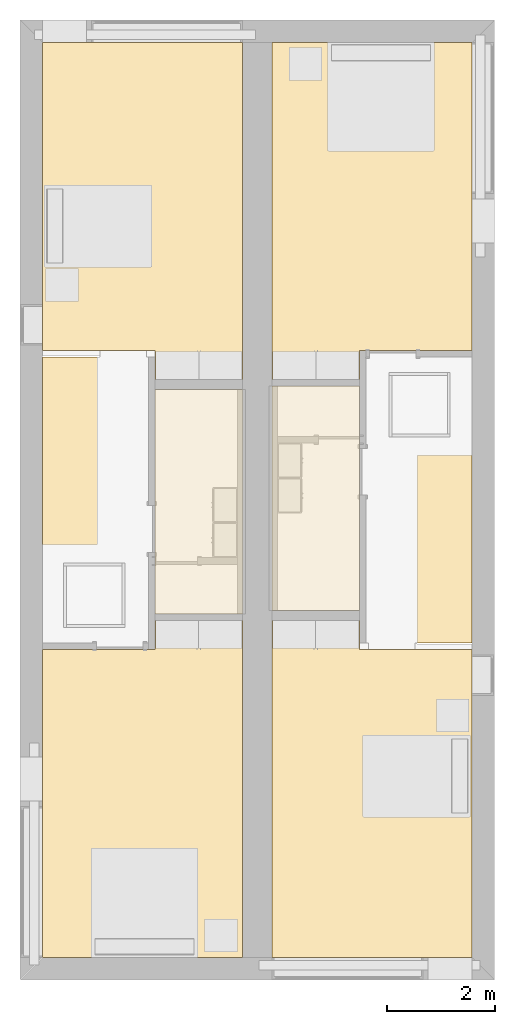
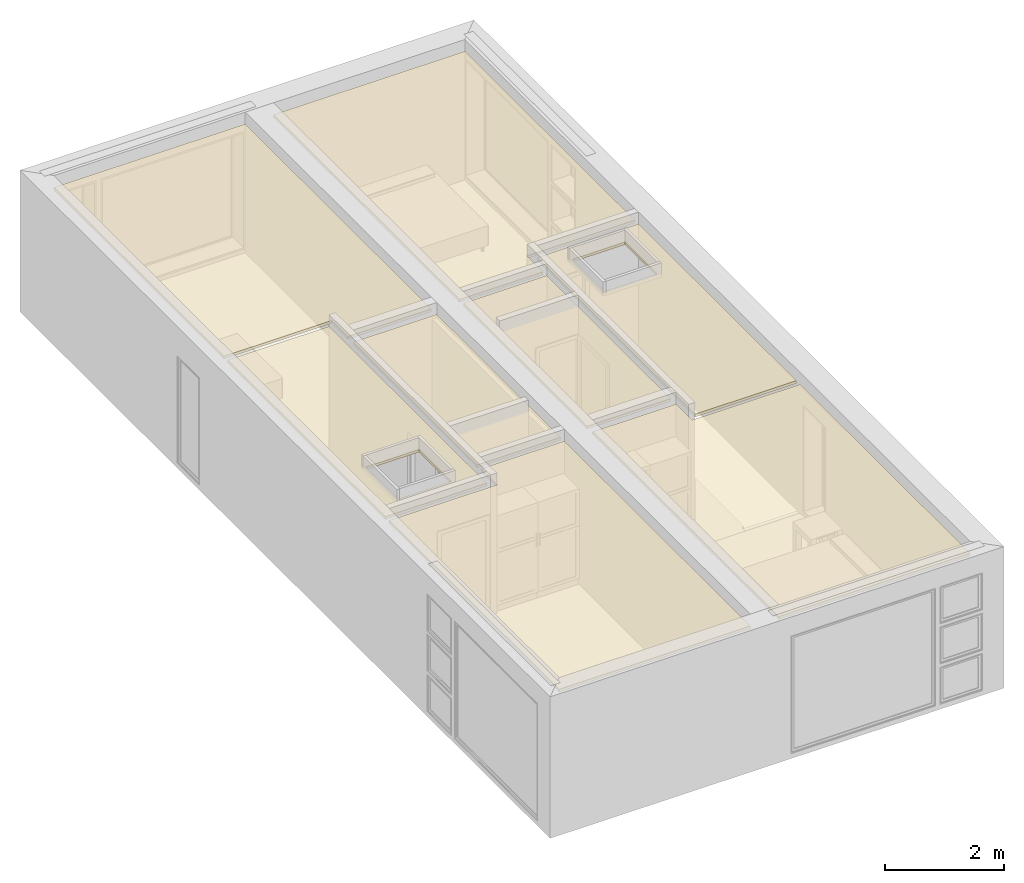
# One storey, part 2 of 8: 8 coverings.
"""IFC4 building model written with IfcOpenShell, lengths in metres."""

from ifc_helpers import new_model, entity, si_unit, converted_unit, frame, origin, place, context, project, spatial, face_set, surface_model, element, save


model = new_model("IFC4")

# Units and contexts
model_context = context("Model", 3, precision=1e-09, world=origin())
plan_context = context("Plan", 3, precision=1e-09, world=origin())
ifc_project = project(units=[si_unit("LENGTHUNIT", "METRE"), si_unit("AREAUNIT", "SQUARE_METRE"), si_unit("VOLUMEUNIT", "CUBIC_METRE"), converted_unit("PLANEANGLEUNIT", "DEGREE", entity("IfcRatioMeasure", 0.01745329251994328), si_unit("PLANEANGLEUNIT", "RADIAN"), dimensions=[0, 0, 0, 0, 0, 0, 0]), si_unit("TIMEUNIT", "SECOND")], contexts=[model_context, plan_context])

# Site, building, storey
site_placement = place(None, origin())
site = spatial("IfcSite", under=ifc_project, at=site_placement, Name="Default", CompositionType="ELEMENT")
building_placement = place(site_placement, origin())
building = spatial("IfcBuilding", under=site, at=building_placement, CompositionType="ELEMENT")
storey_placement = place(building_placement, frame((0.0, 0.0, 3.100000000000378)))
storey = spatial("IfcBuildingStorey", under=building, at=storey_placement, Name="Level 2", CompositionType="ELEMENT", Elevation=3.100000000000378)

# Coverings
covering_1_placement = place(storey_placement, origin())
element("IfcCovering", 1, at=covering_1_placement, inside=storey, Name="Compound Ceiling:Gypsum Board", ObjectType="Compound Ceiling:Gypsum Board", PredefinedType="CEILING", context=model_context, shape_type="SurfaceModel", body=[
    surface_model("IfcFaceBasedSurfaceModel", [(4.124999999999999, -0.4170000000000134, 2.656999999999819), (4.124999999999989, -6.666000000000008, 2.656999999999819), (2.505999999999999, -6.666000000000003, 2.656999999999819), (2.506, -6.126000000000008, 2.656999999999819), (0.4169999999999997, -6.126000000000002, 2.656999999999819), (0.417, -0.4170000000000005, 2.656999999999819), (4.124999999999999, -0.4170000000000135, 2.599999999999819), (4.124999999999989, -6.666000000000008, 2.599999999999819), (2.505999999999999, -6.666000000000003, 2.599999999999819), (2.506, -6.126000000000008, 2.599999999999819), (0.4169999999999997, -6.126000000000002, 2.599999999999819), (0.417, -0.4170000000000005, 2.599999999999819)], [face_set([[[0, 1, 2, 3, 4, 5]], [[6, 7, 8, 9, 10, 11]], [[5, 0, 6, 11]], [[4, 5, 11, 10]], [[3, 9, 10, 4]], [[2, 3, 9, 8]], [[1, 7, 8, 2]], [[0, 6, 7, 1]]])]),
])
covering_2_placement = place(storey_placement, origin())
element("IfcCovering", 2, at=covering_2_placement, inside=storey, Name="Compound Ceiling:Gypsum Board", ObjectType="Compound Ceiling:Gypsum Board", PredefinedType="CEILING", context=model_context, shape_type="SurfaceModel", body=[
    surface_model("IfcFaceBasedSurfaceModel", [(6.294000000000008, -6.666000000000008, 2.656999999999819), (6.294000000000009, -6.126000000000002, 2.656999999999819), (8.38299999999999, -6.126000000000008, 2.656999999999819), (8.383000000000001, -0.4170000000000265, 2.656999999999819), (4.675, -0.4170000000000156, 2.656999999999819), (4.67499999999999, -6.666000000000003, 2.656999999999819), (6.294000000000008, -6.666000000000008, 2.599999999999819), (4.67499999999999, -6.666000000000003, 2.599999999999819), (4.675, -0.4170000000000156, 2.599999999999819), (8.383000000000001, -0.4170000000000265, 2.599999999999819), (8.38299999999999, -6.126000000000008, 2.599999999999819), (6.294000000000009, -6.126000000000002, 2.599999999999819)], [face_set([[[0, 1, 2, 3, 4, 5]], [[6, 7, 8, 9, 10, 11]], [[1, 11, 6, 0]], [[2, 10, 11, 1]], [[3, 9, 10, 2]], [[4, 3, 9, 8]], [[5, 4, 8, 7]], [[0, 6, 7, 5]]])]),
])
covering_3_placement = place(storey_placement, origin())
element("IfcCovering", 3, at=covering_3_placement, inside=storey, Name="Compound Ceiling:Gypsum Board", ObjectType="Compound Ceiling:Gypsum Board", PredefinedType="CEILING", context=model_context, shape_type="SurfaceModel", body=[
    surface_model("IfcFaceBasedSurfaceModel", [(4.674999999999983, -10.95000000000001, 2.656999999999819), (4.674999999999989, -6.790000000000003, 2.656999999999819), (6.294000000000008, -6.790000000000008, 2.656999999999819), (6.294000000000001, -10.95000000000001, 2.656999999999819), (4.674999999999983, -10.95000000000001, 2.599999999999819), (4.674999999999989, -6.790000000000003, 2.599999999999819), (6.294000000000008, -6.790000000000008, 2.599999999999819), (6.294000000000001, -10.95000000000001, 2.599999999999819)], [face_set([[[0, 1, 2, 3]], [[4, 5, 6, 7]], [[3, 7, 4, 0]], [[2, 6, 7, 3]], [[1, 2, 6, 5]], [[0, 1, 5, 4]]])]),
])
covering_4_placement = place(storey_placement, origin())
element("IfcCovering", 4, at=covering_4_placement, inside=storey, Name="Compound Ceiling:Gypsum Board", ObjectType="Compound Ceiling:Gypsum Board", PredefinedType="CEILING", context=model_context, shape_type="SurfaceModel", body=[
    surface_model("IfcFaceBasedSurfaceModel", [(8.38299999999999, -6.250000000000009, 2.657000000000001), (8.382999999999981, -11.55, 2.657000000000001), (6.417999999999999, -11.55, 2.657000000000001), (6.418000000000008, -6.250000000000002, 2.657000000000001), (7.92355000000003, -6.594450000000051, 2.657000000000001), (6.89445000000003, -6.594450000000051, 2.657000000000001), (6.89445000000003, -7.675550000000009, 2.657000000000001), (7.92355000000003, -7.675550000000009, 2.657000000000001), (8.38299999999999, -6.250000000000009, 2.600000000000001), (8.382999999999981, -11.55, 2.600000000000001), (6.417999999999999, -11.55, 2.600000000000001), (6.418000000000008, -6.250000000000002, 2.600000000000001), (7.92355000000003, -6.594450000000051, 2.600000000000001), (6.89445000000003, -6.594450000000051, 2.600000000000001), (6.89445000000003, -7.675550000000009, 2.600000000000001), (7.92355000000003, -7.675550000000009, 2.600000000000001)], [face_set([[[0, 1, 2, 3], [4, 5, 6, 7]], [[8, 9, 10, 11], [12, 13, 14, 15]], [[3, 0, 8, 11]], [[2, 3, 11, 10]], [[1, 9, 10, 2]], [[0, 8, 9, 1]], [[7, 4, 12, 15]], [[6, 7, 15, 14]], [[5, 13, 14, 6]], [[4, 12, 13, 5]]])]),
])
covering_5_placement = place(storey_placement, origin())
element("IfcCovering", 5, at=covering_5_placement, inside=storey, Name="Compound Ceiling:Gypsum Board", ObjectType="Compound Ceiling:Gypsum Board", PredefinedType="CEILING", context=model_context, shape_type="SurfaceModel", body=[
    surface_model("IfcFaceBasedSurfaceModel", [(4.124999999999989, -6.850000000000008, 2.656999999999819), (4.124999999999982, -11.01, 2.656999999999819), (2.505999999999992, -11.01, 2.656999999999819), (2.505999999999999, -6.850000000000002, 2.656999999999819), (4.124999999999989, -6.850000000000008, 2.599999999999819), (4.124999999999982, -11.01, 2.599999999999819), (2.505999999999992, -11.01, 2.599999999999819), (2.505999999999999, -6.850000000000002, 2.599999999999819)], [face_set([[[0, 1, 2, 3]], [[4, 5, 6, 7]], [[3, 0, 4, 7]], [[2, 3, 7, 6]], [[1, 5, 6, 2]], [[0, 4, 5, 1]]])]),
])
covering_6_placement = place(storey_placement, origin())
element("IfcCovering", 6, at=covering_6_placement, inside=storey, Name="Compound Ceiling:Gypsum Board", ObjectType="Compound Ceiling:Gypsum Board", PredefinedType="CEILING", context=model_context, shape_type="SurfaceModel", body=[
    surface_model("IfcFaceBasedSurfaceModel", [(0.4169999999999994, -11.55, 2.657000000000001), (0.4169999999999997, -6.250000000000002, 2.657000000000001), (2.382, -6.250000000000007, 2.657000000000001), (2.381999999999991, -11.55, 2.657000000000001), (1.890550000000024, -10.12445000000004, 2.657000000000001), (0.861450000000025, -10.12445000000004, 2.657000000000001), (0.861450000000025, -11.20555, 2.657000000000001), (1.890550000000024, -11.20555, 2.657000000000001), (0.4169999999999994, -11.55, 2.600000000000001), (0.4169999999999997, -6.250000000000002, 2.600000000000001), (2.382, -6.250000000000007, 2.600000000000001), (2.381999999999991, -11.55, 2.600000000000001), (1.890550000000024, -10.12445000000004, 2.600000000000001), (0.861450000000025, -10.12445000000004, 2.600000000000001), (0.861450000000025, -11.20555, 2.600000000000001), (1.890550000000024, -11.20555, 2.600000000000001)], [face_set([[[0, 1, 2, 3], [4, 5, 6, 7]], [[8, 9, 10, 11], [12, 13, 14, 15]], [[3, 11, 8, 0]], [[2, 10, 11, 3]], [[1, 2, 10, 9]], [[0, 1, 9, 8]], [[7, 4, 12, 15]], [[6, 7, 15, 14]], [[5, 13, 14, 6]], [[4, 12, 13, 5]]])]),
])
covering_7_placement = place(storey_placement, origin())
element("IfcCovering", 7, at=covering_7_placement, inside=storey, Name="Compound Ceiling:Gypsum Board", ObjectType="Compound Ceiling:Gypsum Board", PredefinedType="CEILING", context=model_context, shape_type="SurfaceModel", body=[
    surface_model("IfcFaceBasedSurfaceModel", [(2.505999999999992, -11.134, 2.656999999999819), (2.505999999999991, -11.674, 2.656999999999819), (0.4169999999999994, -11.674, 2.656999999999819), (0.4169999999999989, -17.38299999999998, 2.656999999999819), (4.124999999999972, -17.38299999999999, 2.656999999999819), (4.124999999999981, -11.134, 2.656999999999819), (2.505999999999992, -11.134, 2.599999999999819), (4.124999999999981, -11.134, 2.599999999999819), (4.124999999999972, -17.38299999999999, 2.599999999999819), (0.4169999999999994, -17.38299999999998, 2.599999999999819), (0.4169999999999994, -11.674, 2.599999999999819), (2.505999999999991, -11.674, 2.599999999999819)], [face_set([[[0, 1, 2, 3, 4, 5]], [[6, 7, 8, 9, 10, 11]], [[1, 0, 6, 11]], [[2, 1, 11, 10]], [[3, 2, 10, 9]], [[4, 8, 9, 3]], [[5, 7, 8, 4]], [[0, 5, 7, 6]]])]),
])
covering_8_placement = place(storey_placement, origin())
element("IfcCovering", 8, at=covering_8_placement, inside=storey, Name="Compound Ceiling:Gypsum Board", ObjectType="Compound Ceiling:Gypsum Board", PredefinedType="CEILING", context=model_context, shape_type="SurfaceModel", body=[
    surface_model("IfcFaceBasedSurfaceModel", [(4.674999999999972, -17.38299999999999, 2.656999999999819), (4.674999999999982, -11.13400000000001, 2.656999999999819), (6.294000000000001, -11.13400000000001, 2.656999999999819), (6.294, -11.674, 2.656999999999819), (8.382999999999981, -11.674, 2.656999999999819), (8.382999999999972, -17.383, 2.656999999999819), (4.674999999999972, -17.38299999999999, 2.599999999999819), (4.674999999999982, -11.13400000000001, 2.599999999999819), (6.294000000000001, -11.13400000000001, 2.599999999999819), (6.294, -11.674, 2.599999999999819), (8.382999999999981, -11.674, 2.599999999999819), (8.382999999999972, -17.383, 2.599999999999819)], [face_set([[[0, 1, 2, 3, 4, 5]], [[6, 7, 8, 9, 10, 11]], [[5, 11, 6, 0]], [[4, 10, 11, 5]], [[3, 4, 10, 9]], [[2, 8, 9, 3]], [[1, 2, 8, 7]], [[0, 1, 7, 6]]])]),
])

save(model, "model.ifc")
